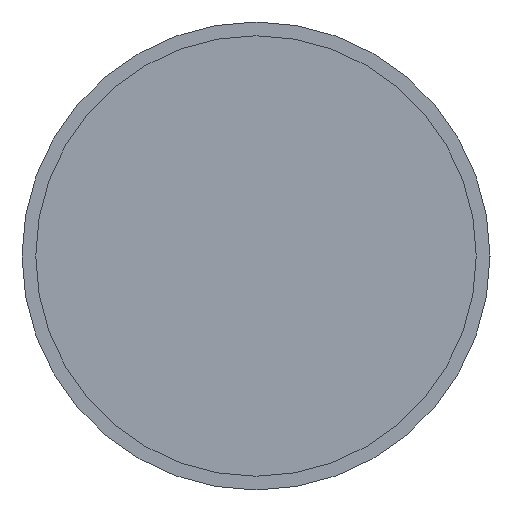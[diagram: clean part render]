
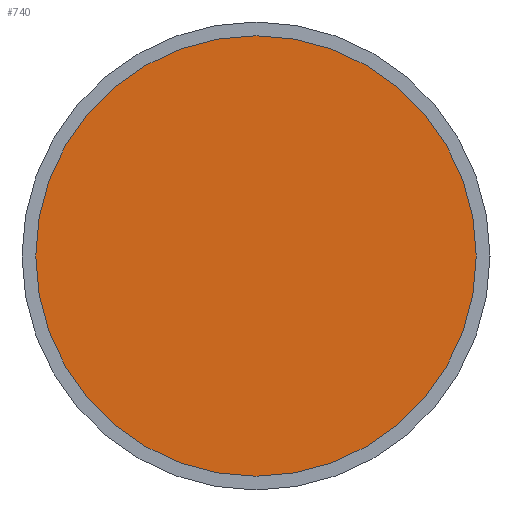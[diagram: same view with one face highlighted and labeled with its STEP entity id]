
A CAD part, left-side view. The second image highlights one B-rep face of the part: STEP entity #740.
In plain terms, the highlighted planar face has unit normal (-1, 0, 0).
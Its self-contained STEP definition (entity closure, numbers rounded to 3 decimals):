
#97 = CARTESIAN_POINT ( 'NONE',  ( 0., 0., 0. ) ) ;
#98 = DIRECTION ( 'NONE',  ( -1., 0., 0. ) ) ;
#99 = DIRECTION ( 'NONE',  ( 0., 0., 1. ) ) ;
#102 = CARTESIAN_POINT ( 'NONE',  ( 0., 0., 0. ) ) ;
#103 = DIRECTION ( 'NONE',  ( -1., 0., 0. ) ) ;
#104 = DIRECTION ( 'NONE',  ( 0., 0., 1. ) ) ;
#196 = PLANE ( 'NONE',  #630 ) ;
#197 = CARTESIAN_POINT ( 'NONE',  ( 0., 8., 0. ) ) ;
#198 = DIRECTION ( 'NONE',  ( 1., 0., 0. ) ) ;
#199 = DIRECTION ( 'NONE',  ( 0., 0., -1. ) ) ;
#277 = ORIENTED_EDGE ( 'NONE', *, *, #704, .T. ) ;
#279 = ORIENTED_EDGE ( 'NONE', *, *, #706, .T. ) ;
#323 = EDGE_LOOP ( 'NONE', ( #277, #279 ) ) ;
#428 = VERTEX_POINT ( 'NONE', #819 ) ;
#430 = VERTEX_POINT ( 'NONE', #836 ) ;
#477 = FACE_OUTER_BOUND ( 'NONE', #323, .T. ) ;
#564 = AXIS2_PLACEMENT_3D ( 'NONE', #102, #103, #104 ) ;
#566 = CIRCLE ( 'NONE', #564, 8. ) ;
#568 = AXIS2_PLACEMENT_3D ( 'NONE', #97, #98, #99 ) ;
#621 = CIRCLE ( 'NONE', #568, 8. ) ;
#630 = AXIS2_PLACEMENT_3D ( 'NONE', #197, #198, #199 ) ;
#704 = EDGE_CURVE ( 'NONE', #430, #428, #621, .T. ) ;
#706 = EDGE_CURVE ( 'NONE', #428, #430, #566, .T. ) ;
#740 = ADVANCED_FACE ( 'NONE', ( #477 ), #196, .F. ) ;
#819 = CARTESIAN_POINT ( 'NONE',  ( 0., 0., -8. ) ) ;
#836 = CARTESIAN_POINT ( 'NONE',  ( 0., 0., 8. ) ) ;
